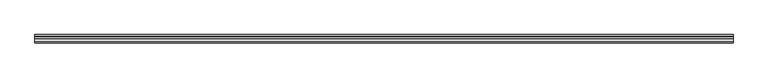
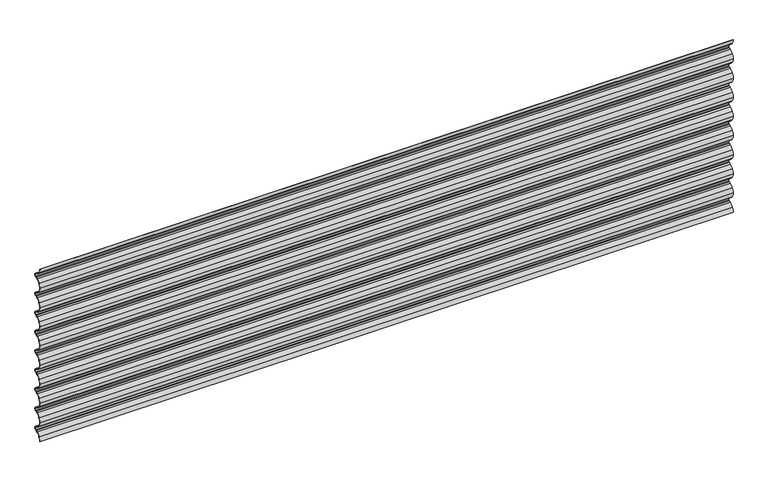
"""IFC4 building model written with IfcOpenShell, lengths in millimetres: plate geometry, Regolare Horizontal 801 : Regolare Horizontal 801."""

from ifc_helpers import new_model, si_unit, point, frame, frame_2d, origin, place, context, project, spatial, polyline, circle_curve, trimmed, segment, composite_curve, outline, extrude, source, transform, mapped, element, save


def plate_54f94469(model_context):
    return source(origin(), model_context, "Body", "SweptSolid", [
        extrude(outline(composite_curve([segment(trimmed(circle_curve(frame_2d((38.4503244, 0.0)), 37.4503244), [point((6.5021495, 19.5407501))], [point((1.0, 0.0))], True, "CARTESIAN"), True, "CONTINUOUS"), segment(polyline([(1.0, 0.0), (0.0, 0.0)]), True, "CONTINUOUS"), segment(trimmed(circle_curve(frame_2d((38.4503244, 0.0)), 38.4503244), [point((0.0, 0.0))], [point((5.6490681, 20.062528))], False, "CARTESIAN"), True, "CONTINUOUS"), segment(trimmed(circle_curve(frame_2d((32.6206681, 3.5656452)), 31.6166783), [point((5.6490681, 20.062528))], [point((20.878867, 32.9211295))], False, "CARTESIAN"), True, "CONTINUOUS"), segment(polyline([(20.878867, 32.9211295), (28.0423924, 35.7903512), (31.4771017, 37.4367049)]), True, "CONTINUOUS"), segment(trimmed(circle_curve(frame_2d((28.0791236, 44.5257445)), 7.8613445), [point((31.4771017, 37.4367049))], [point((35.9404682, 44.5257445))], True, "CARTESIAN"), True, "CONTINUOUS"), segment(trimmed(circle_curve(frame_2d((28.0791236, 44.5257445)), 7.8613445), [point((35.9404682, 44.5257445))], [point((31.4771017, 51.6147842))], True, "CARTESIAN"), True, "CONTINUOUS"), segment(polyline([(31.4771017, 51.6147842), (28.0423924, 53.2611379), (20.878867, 56.1303596)]), True, "CONTINUOUS"), segment(trimmed(circle_curve(frame_2d((32.6206681, 85.4858438)), 31.6166783), [point((20.878867, 56.1303596))], [point((5.6490681, 68.9889611))], False, "CARTESIAN"), True, "CONTINUOUS"), segment(trimmed(circle_curve(frame_2d((38.4503244, 89.0514891)), 38.4503244), [point((5.6490681, 68.9889611))], [point((0.0, 89.0514891))], False, "CARTESIAN"), True, "CONTINUOUS"), segment(trimmed(circle_curve(frame_2d((38.4503244, 89.0514891)), 38.4503244), [point((0.0, 89.0514891))], [point((5.6490681, 109.1140171))], False, "CARTESIAN"), True, "CONTINUOUS"), segment(trimmed(circle_curve(frame_2d((32.6206681, 92.6171343)), 31.6166783), [point((5.6490681, 109.1140171))], [point((20.878867, 121.9726185))], False, "CARTESIAN"), True, "CONTINUOUS"), segment(polyline([(20.878867, 121.9726185), (28.0423924, 124.8418403), (31.4771017, 126.488194)]), True, "CONTINUOUS"), segment(trimmed(circle_curve(frame_2d((28.0791236, 133.5772336)), 7.8613445), [point((31.4771017, 126.488194))], [point((31.4771017, 140.6662733))], True, "CARTESIAN"), True, "CONTINUOUS"), segment(polyline([(31.4771017, 140.6662733), (28.0423924, 142.312627), (20.878867, 145.1818487)]), True, "CONTINUOUS"), segment(trimmed(circle_curve(frame_2d((32.6206681, 174.5373329)), 31.6166783), [point((20.878867, 145.1818487))], [point((5.6490681, 158.0404502))], False, "CARTESIAN"), True, "CONTINUOUS"), segment(trimmed(circle_curve(frame_2d((38.4503244, 178.1029782)), 38.4503244), [point((5.6490681, 158.0404502))], [point((0.0, 178.1029782))], False, "CARTESIAN"), True, "CONTINUOUS"), segment(trimmed(circle_curve(frame_2d((38.4503244, 178.1029782)), 38.4503244), [point((0.0, 178.1029782))], [point((5.6490681, 198.1655062))], False, "CARTESIAN"), True, "CONTINUOUS"), segment(trimmed(circle_curve(frame_2d((32.6206681, 181.6686234)), 31.6166783), [point((5.6490681, 198.1655062))], [point((20.878867, 211.0241076))], False, "CARTESIAN"), True, "CONTINUOUS"), segment(polyline([(20.878867, 211.0241076), (28.0423924, 213.8933293), (31.4771017, 215.5396831)]), True, "CONTINUOUS"), segment(trimmed(circle_curve(frame_2d((28.0791236, 222.6287227)), 7.8613445), [point((31.4771017, 215.5396831))], [point((31.4771017, 229.7177623))], True, "CARTESIAN"), True, "CONTINUOUS"), segment(polyline([(31.4771017, 229.7177623), (28.0423924, 231.3641161), (20.878867, 234.2333378)]), True, "CONTINUOUS"), segment(trimmed(circle_curve(frame_2d((32.6206681, 263.588822)), 31.6166783), [point((20.878867, 234.2333378))], [point((5.6490681, 247.0919392))], False, "CARTESIAN"), True, "CONTINUOUS"), segment(trimmed(circle_curve(frame_2d((38.4503244, 267.1544672)), 38.4503244), [point((5.6490681, 247.0919392))], [point((0.0, 267.1544672))], False, "CARTESIAN"), True, "CONTINUOUS"), segment(trimmed(circle_curve(frame_2d((38.4503244, 267.1544672)), 38.4503244), [point((0.0, 267.1544672))], [point((5.6490681, 287.2169952))], False, "CARTESIAN"), True, "CONTINUOUS"), segment(trimmed(circle_curve(frame_2d((32.6206681, 270.7201125)), 31.6166783), [point((5.6490681, 287.2169952))], [point((20.878867, 300.0755967))], False, "CARTESIAN"), True, "CONTINUOUS"), segment(polyline([(20.878867, 300.0755967), (28.0423924, 302.9448184), (31.4771017, 304.5911721)]), True, "CONTINUOUS"), segment(trimmed(circle_curve(frame_2d((28.0791236, 311.6802118)), 7.8613445), [point((31.4771017, 304.5911721))], [point((31.4771017, 318.7692514))], True, "CARTESIAN"), True, "CONTINUOUS"), segment(polyline([(31.4771017, 318.7692514), (28.0423924, 320.4156051), (20.878867, 323.2848269)]), True, "CONTINUOUS"), segment(trimmed(circle_curve(frame_2d((32.6206681, 352.6403111)), 31.6166783), [point((20.878867, 323.2848269))], [point((5.6490681, 336.1434283))], False, "CARTESIAN"), True, "CONTINUOUS"), segment(trimmed(circle_curve(frame_2d((38.4503244, 356.2059563)), 38.4503244), [point((5.6490681, 336.1434283))], [point((0.0, 356.2059563))], False, "CARTESIAN"), True, "CONTINUOUS"), segment(trimmed(circle_curve(frame_2d((38.4503244, 356.2059563)), 38.4503244), [point((0.0, 356.2059563))], [point((5.6490681, 376.2684843))], False, "CARTESIAN"), True, "CONTINUOUS"), segment(trimmed(circle_curve(frame_2d((32.6206681, 359.7716016)), 31.6166783), [point((5.6490681, 376.2684843))], [point((20.878867, 389.1270858))], False, "CARTESIAN"), True, "CONTINUOUS"), segment(polyline([(20.878867, 389.1270858), (28.0423924, 391.9963075), (31.4771017, 393.6426612)]), True, "CONTINUOUS"), segment(trimmed(circle_curve(frame_2d((28.0791236, 400.7317009)), 7.8613445), [point((31.4771017, 393.6426612))], [point((31.4771017, 407.8207405))], True, "CARTESIAN"), True, "CONTINUOUS"), segment(polyline([(31.4771017, 407.8207405), (28.0423924, 409.4670942), (20.878867, 412.3363159)]), True, "CONTINUOUS"), segment(trimmed(circle_curve(frame_2d((32.6206681, 441.6918002)), 31.6166783), [point((20.878867, 412.3363159))], [point((5.6490681, 425.1949174))], False, "CARTESIAN"), True, "CONTINUOUS"), segment(trimmed(circle_curve(frame_2d((38.4503244, 445.2574454)), 38.4503244), [point((5.6490681, 425.1949174))], [point((0.0, 445.2574454))], False, "CARTESIAN"), True, "CONTINUOUS"), segment(trimmed(circle_curve(frame_2d((38.4503244, 445.2574454)), 38.4503244), [point((0.0, 445.2574454))], [point((5.6490681, 465.3199734))], False, "CARTESIAN"), True, "CONTINUOUS"), segment(trimmed(circle_curve(frame_2d((32.6206681, 448.8230907)), 31.6166783), [point((5.6490681, 465.3199734))], [point((20.878867, 478.1785749))], False, "CARTESIAN"), True, "CONTINUOUS"), segment(polyline([(20.878867, 478.1785749), (28.0423924, 481.0477966), (31.4771017, 482.6941503)]), True, "CONTINUOUS"), segment(trimmed(circle_curve(frame_2d((28.0791236, 489.7831899)), 7.8613445), [point((31.4771017, 482.6941503))], [point((31.4771017, 496.8722296))], True, "CARTESIAN"), True, "CONTINUOUS"), segment(polyline([(31.4771017, 496.8722296), (28.0423924, 498.5185833), (20.878867, 501.387805)]), True, "CONTINUOUS"), segment(trimmed(circle_curve(frame_2d((32.6206681, 530.7432892)), 31.6166783), [point((20.878867, 501.387805))], [point((5.6490681, 514.2464065))], False, "CARTESIAN"), True, "CONTINUOUS"), segment(trimmed(circle_curve(frame_2d((38.4503244, 534.3089345)), 38.4503244), [point((5.6490681, 514.2464065))], [point((0.0, 534.3089345))], False, "CARTESIAN"), True, "CONTINUOUS"), segment(trimmed(circle_curve(frame_2d((38.4503244, 534.3089345)), 38.4503244), [point((0.0, 534.3089345))], [point((5.6490681, 554.3714625))], False, "CARTESIAN"), True, "CONTINUOUS"), segment(trimmed(circle_curve(frame_2d((32.6206681, 537.8745797)), 31.6166783), [point((5.6490681, 554.3714625))], [point((20.878867, 567.2300639))], False, "CARTESIAN"), True, "CONTINUOUS"), segment(polyline([(20.878867, 567.2300639), (28.0423924, 570.0992857), (31.4771017, 571.7456394)]), True, "CONTINUOUS"), segment(trimmed(circle_curve(frame_2d((28.0791236, 578.834679)), 7.8613445), [point((31.4771017, 571.7456394))], [point((31.4771017, 585.9237187))], True, "CARTESIAN"), True, "CONTINUOUS"), segment(polyline([(31.4771017, 585.9237187), (28.0423924, 587.5700724), (20.878867, 590.4392941)]), True, "CONTINUOUS"), segment(trimmed(circle_curve(frame_2d((32.6206681, 619.7947783)), 31.6166783), [point((20.878867, 590.4392941))], [point((5.6490681, 603.2978956))], False, "CARTESIAN"), True, "CONTINUOUS"), segment(trimmed(circle_curve(frame_2d((38.4503244, 623.3604236)), 38.4503244), [point((5.6490681, 603.2978956))], [point((0.0, 623.3604236))], False, "CARTESIAN"), True, "CONTINUOUS"), segment(trimmed(circle_curve(frame_2d((38.4503244, 623.3604236)), 38.4503244), [point((0.0, 623.3604236))], [point((5.6490681, 643.4229516))], False, "CARTESIAN"), True, "CONTINUOUS"), segment(trimmed(circle_curve(frame_2d((32.6206681, 626.9260688)), 31.6166783), [point((5.6490681, 643.4229516))], [point((20.878867, 656.281553))], False, "CARTESIAN"), True, "CONTINUOUS"), segment(polyline([(20.878867, 656.281553), (28.0423924, 659.1507748), (31.4771017, 660.7971285)]), True, "CONTINUOUS"), segment(trimmed(circle_curve(frame_2d((28.0791236, 667.8861681)), 7.8613445), [point((31.4771017, 660.7971285))], [point((31.4771017, 674.9752077))], True, "CARTESIAN"), True, "CONTINUOUS"), segment(polyline([(31.4771017, 674.9752077), (28.0423924, 676.6215615), (20.878867, 679.4907832)]), True, "CONTINUOUS"), segment(trimmed(circle_curve(frame_2d((32.6206681, 708.8462674)), 31.6166783), [point((20.878867, 679.4907832))], [point((5.6490681, 692.3493846))], False, "CARTESIAN"), True, "CONTINUOUS"), segment(trimmed(circle_curve(frame_2d((38.4503244, 712.4119126)), 38.4503244), [point((5.6490681, 692.3493846))], [point((0.0, 712.4119126))], False, "CARTESIAN"), True, "CONTINUOUS"), segment(trimmed(circle_curve(frame_2d((38.4503244, 712.4119126)), 38.4503244), [point((0.0, 712.4119126))], [point((5.6490681, 732.4744406))], False, "CARTESIAN"), True, "CONTINUOUS"), segment(trimmed(circle_curve(frame_2d((32.6206681, 715.9775579)), 31.6166783), [point((5.6490681, 732.4744406))], [point((20.878867, 745.3330421))], False, "CARTESIAN"), True, "CONTINUOUS"), segment(polyline([(20.878867, 745.3330421), (28.0423924, 748.2022638), (31.4771017, 749.8486175)]), True, "CONTINUOUS"), segment(trimmed(circle_curve(frame_2d((28.0791236, 756.9376572)), 7.8613445), [point((31.4771017, 749.8486175))], [point((31.4771017, 764.0266968))], True, "CARTESIAN"), True, "CONTINUOUS"), segment(polyline([(31.4771017, 764.0266968), (28.0423924, 765.6730505), (20.878867, 768.5422723)]), True, "CONTINUOUS"), segment(trimmed(circle_curve(frame_2d((32.6206681, 797.8977565)), 31.6166783), [point((20.878867, 768.5422723))], [point((5.6490681, 781.4008737))], False, "CARTESIAN"), True, "CONTINUOUS"), segment(trimmed(circle_curve(frame_2d((38.4503244, 801.4634017)), 38.4503244), [point((5.6490681, 781.4008737))], [point((0.0, 801.4634017))], False, "CARTESIAN"), True, "CONTINUOUS"), segment(polyline([(0.0, 801.4634017), (1.0, 801.4634017)]), True, "CONTINUOUS"), segment(trimmed(circle_curve(frame_2d((38.4503244, 801.4634017)), 37.4503244), [point((1.0, 801.4634017))], [point((6.5021495, 781.9226516))], True, "CARTESIAN"), True, "CONTINUOUS"), segment(trimmed(circle_curve(frame_2d((32.6206681, 797.8977565)), 30.6166783), [point((6.5021495, 781.9226516))], [point((21.2504634, 769.4706666))], True, "CARTESIAN"), True, "CONTINUOUS"), segment(polyline([(21.2504634, 769.4706666), (28.4448583, 766.5890807), (31.9093405, 764.928456)]), True, "CONTINUOUS"), segment(trimmed(circle_curve(frame_2d((28.0791236, 756.9376572)), 8.8613445), [point((31.9093405, 764.928456))], [point((31.9093405, 748.9468584))], False, "CARTESIAN"), True, "CONTINUOUS"), segment(polyline([(31.9093405, 748.9468584), (28.4448583, 747.2862336), (21.2504634, 744.4046477)]), True, "CONTINUOUS"), segment(trimmed(circle_curve(frame_2d((32.6206681, 715.9775579)), 30.6166783), [point((21.2504634, 744.4046477))], [point((6.5021495, 731.9526628))], True, "CARTESIAN"), True, "CONTINUOUS"), segment(trimmed(circle_curve(frame_2d((38.4503244, 712.4119126)), 37.4503244), [point((6.5021495, 731.9526628))], [point((1.0, 712.4119126))], True, "CARTESIAN"), True, "CONTINUOUS"), segment(trimmed(circle_curve(frame_2d((38.4503244, 712.4119126)), 37.4503244), [point((1.0, 712.4119126))], [point((6.5021495, 692.8711625))], True, "CARTESIAN"), True, "CONTINUOUS"), segment(trimmed(circle_curve(frame_2d((32.6206681, 708.8462674)), 30.6166783), [point((6.5021495, 692.8711625))], [point((21.2504634, 680.4191776))], True, "CARTESIAN"), True, "CONTINUOUS"), segment(polyline([(21.2504634, 680.4191776), (28.4448583, 677.5375917), (31.9093405, 675.8769669)]), True, "CONTINUOUS"), segment(trimmed(circle_curve(frame_2d((28.0791236, 667.8861681)), 8.8613445), [point((31.9093405, 675.8769669))], [point((31.9093405, 659.8953693))], False, "CARTESIAN"), True, "CONTINUOUS"), segment(polyline([(31.9093405, 659.8953693), (28.4448583, 658.2347446), (21.2504634, 655.3531587)]), True, "CONTINUOUS"), segment(trimmed(circle_curve(frame_2d((32.6206681, 626.9260688)), 30.6166783), [point((21.2504634, 655.3531587))], [point((6.5021495, 642.9011737))], True, "CARTESIAN"), True, "CONTINUOUS"), segment(trimmed(circle_curve(frame_2d((38.4503244, 623.3604236)), 37.4503244), [point((6.5021495, 642.9011737))], [point((1.0, 623.3604236))], True, "CARTESIAN"), True, "CONTINUOUS"), segment(trimmed(circle_curve(frame_2d((38.4503244, 623.3604236)), 37.4503244), [point((1.0, 623.3604236))], [point((6.5021495, 603.8196734))], True, "CARTESIAN"), True, "CONTINUOUS"), segment(trimmed(circle_curve(frame_2d((32.6206681, 619.7947783)), 30.6166783), [point((6.5021495, 603.8196734))], [point((21.2504634, 591.3676885))], True, "CARTESIAN"), True, "CONTINUOUS"), segment(polyline([(21.2504634, 591.3676885), (28.4448583, 588.4861026), (31.9093405, 586.8254778)]), True, "CONTINUOUS"), segment(trimmed(circle_curve(frame_2d((28.0791236, 578.834679)), 8.8613445), [point((31.9093405, 586.8254778))], [point((31.9093405, 570.8438802))], False, "CARTESIAN"), True, "CONTINUOUS"), segment(polyline([(31.9093405, 570.8438802), (28.4448583, 569.1832555), (21.2504634, 566.3016696)]), True, "CONTINUOUS"), segment(trimmed(circle_curve(frame_2d((32.6206681, 537.8745797)), 30.6166783), [point((21.2504634, 566.3016696))], [point((6.5021495, 553.8496846))], True, "CARTESIAN"), True, "CONTINUOUS"), segment(trimmed(circle_curve(frame_2d((38.4503244, 534.3089345)), 37.4503244), [point((6.5021495, 553.8496846))], [point((1.0, 534.3089345))], True, "CARTESIAN"), True, "CONTINUOUS"), segment(trimmed(circle_curve(frame_2d((38.4503244, 534.3089345)), 37.4503244), [point((1.0, 534.3089345))], [point((6.5021495, 514.7681843))], True, "CARTESIAN"), True, "CONTINUOUS"), segment(trimmed(circle_curve(frame_2d((32.6206681, 530.7432892)), 30.6166783), [point((6.5021495, 514.7681843))], [point((21.2504634, 502.3161994))], True, "CARTESIAN"), True, "CONTINUOUS"), segment(polyline([(21.2504634, 502.3161994), (28.4448583, 499.4346135), (31.9093405, 497.7739888)]), True, "CONTINUOUS"), segment(trimmed(circle_curve(frame_2d((28.0791236, 489.7831899)), 8.8613445), [point((31.9093405, 497.7739888))], [point((31.9093405, 481.7923911))], False, "CARTESIAN"), True, "CONTINUOUS"), segment(polyline([(31.9093405, 481.7923911), (28.4448583, 480.1317664), (21.2504634, 477.2501805)]), True, "CONTINUOUS"), segment(trimmed(circle_curve(frame_2d((32.6206681, 448.8230907)), 30.6166783), [point((21.2504634, 477.2501805))], [point((6.5021495, 464.7981955))], True, "CARTESIAN"), True, "CONTINUOUS"), segment(trimmed(circle_curve(frame_2d((38.4503244, 445.2574454)), 37.4503244), [point((6.5021495, 464.7981955))], [point((1.0, 445.2574454))], True, "CARTESIAN"), True, "CONTINUOUS"), segment(trimmed(circle_curve(frame_2d((38.4503244, 445.2574454)), 37.4503244), [point((1.0, 445.2574454))], [point((6.5021495, 425.7166953))], True, "CARTESIAN"), True, "CONTINUOUS"), segment(trimmed(circle_curve(frame_2d((32.6206681, 441.6918002)), 30.6166783), [point((6.5021495, 425.7166953))], [point((21.2504634, 413.2647103))], True, "CARTESIAN"), True, "CONTINUOUS"), segment(polyline([(21.2504634, 413.2647103), (28.4448583, 410.3831244), (31.9093405, 408.7224997)]), True, "CONTINUOUS"), segment(trimmed(circle_curve(frame_2d((28.0791236, 400.7317009)), 8.8613445), [point((31.9093405, 408.7224997))], [point((31.9093405, 392.740902))], False, "CARTESIAN"), True, "CONTINUOUS"), segment(polyline([(31.9093405, 392.740902), (28.4448583, 391.0802773), (21.2504634, 388.1986914)]), True, "CONTINUOUS"), segment(trimmed(circle_curve(frame_2d((32.6206681, 359.7716016)), 30.6166783), [point((21.2504634, 388.1986914))], [point((6.5021495, 375.7467065))], True, "CARTESIAN"), True, "CONTINUOUS"), segment(trimmed(circle_curve(frame_2d((38.4503244, 356.2059563)), 37.4503244), [point((6.5021495, 375.7467065))], [point((1.0, 356.2059563))], True, "CARTESIAN"), True, "CONTINUOUS"), segment(trimmed(circle_curve(frame_2d((38.4503244, 356.2059563)), 37.4503244), [point((1.0, 356.2059563))], [point((6.5021495, 336.6652062))], True, "CARTESIAN"), True, "CONTINUOUS"), segment(trimmed(circle_curve(frame_2d((32.6206681, 352.6403111)), 30.6166783), [point((6.5021495, 336.6652062))], [point((21.2504634, 324.2132212))], True, "CARTESIAN"), True, "CONTINUOUS"), segment(polyline([(21.2504634, 324.2132212), (28.4448583, 321.3316353), (31.9093405, 319.6710106)]), True, "CONTINUOUS"), segment(trimmed(circle_curve(frame_2d((28.0791236, 311.6802118)), 8.8613445), [point((31.9093405, 319.6710106))], [point((31.9093405, 303.689413))], False, "CARTESIAN"), True, "CONTINUOUS"), segment(polyline([(31.9093405, 303.689413), (28.4448583, 302.0287882), (21.2504634, 299.1472023)]), True, "CONTINUOUS"), segment(trimmed(circle_curve(frame_2d((32.6206681, 270.7201125)), 30.6166783), [point((21.2504634, 299.1472023))], [point((6.5021495, 286.6952174))], True, "CARTESIAN"), True, "CONTINUOUS"), segment(trimmed(circle_curve(frame_2d((38.4503244, 267.1544672)), 37.4503244), [point((6.5021495, 286.6952174))], [point((1.0, 267.1544672))], True, "CARTESIAN"), True, "CONTINUOUS"), segment(trimmed(circle_curve(frame_2d((38.4503244, 267.1544672)), 37.4503244), [point((1.0, 267.1544672))], [point((6.5021495, 247.6137171))], True, "CARTESIAN"), True, "CONTINUOUS"), segment(trimmed(circle_curve(frame_2d((32.6206681, 263.588822)), 30.6166783), [point((6.5021495, 247.6137171))], [point((21.2504634, 235.1617322))], True, "CARTESIAN"), True, "CONTINUOUS"), segment(polyline([(21.2504634, 235.1617322), (28.4448583, 232.2801463), (31.9093405, 230.6195215)]), True, "CONTINUOUS"), segment(trimmed(circle_curve(frame_2d((28.0791236, 222.6287227)), 8.8613445), [point((31.9093405, 230.6195215))], [point((31.9093405, 214.6379239))], False, "CARTESIAN"), True, "CONTINUOUS"), segment(polyline([(31.9093405, 214.6379239), (28.4448583, 212.9772992), (21.2504634, 210.0957133)]), True, "CONTINUOUS"), segment(trimmed(circle_curve(frame_2d((32.6206681, 181.6686234)), 30.6166783), [point((21.2504634, 210.0957133))], [point((6.5021495, 197.6437283))], True, "CARTESIAN"), True, "CONTINUOUS"), segment(trimmed(circle_curve(frame_2d((38.4503244, 178.1029782)), 37.4503244), [point((6.5021495, 197.6437283))], [point((1.0, 178.1029782))], True, "CARTESIAN"), True, "CONTINUOUS"), segment(trimmed(circle_curve(frame_2d((38.4503244, 178.1029782)), 37.4503244), [point((1.0, 178.1029782))], [point((6.5021495, 158.562228))], True, "CARTESIAN"), True, "CONTINUOUS"), segment(trimmed(circle_curve(frame_2d((32.6206681, 174.5373329)), 30.6166783), [point((6.5021495, 158.562228))], [point((21.2504634, 146.1102431))], True, "CARTESIAN"), True, "CONTINUOUS"), segment(polyline([(21.2504634, 146.1102431), (28.4448583, 143.2286572), (31.9093405, 141.5680324)]), True, "CONTINUOUS"), segment(trimmed(circle_curve(frame_2d((28.0791236, 133.5772336)), 8.8613445), [point((31.9093405, 141.5680324))], [point((31.9093405, 125.5864348))], False, "CARTESIAN"), True, "CONTINUOUS"), segment(polyline([(31.9093405, 125.5864348), (28.4448583, 123.9258101), (21.2504634, 121.0442242)]), True, "CONTINUOUS"), segment(trimmed(circle_curve(frame_2d((32.6206681, 92.6171343)), 30.6166783), [point((21.2504634, 121.0442242))], [point((6.5021495, 108.5922392))], True, "CARTESIAN"), True, "CONTINUOUS"), segment(trimmed(circle_curve(frame_2d((38.4503244, 89.0514891)), 37.4503244), [point((6.5021495, 108.5922392))], [point((1.0, 89.0514891))], True, "CARTESIAN"), True, "CONTINUOUS"), segment(trimmed(circle_curve(frame_2d((38.4503244, 89.0514891)), 37.4503244), [point((1.0, 89.0514891))], [point((6.5021495, 69.5107389))], True, "CARTESIAN"), True, "CONTINUOUS"), segment(trimmed(circle_curve(frame_2d((32.6206681, 85.4858438)), 30.6166783), [point((6.5021495, 69.5107389))], [point((21.2504634, 57.058754))], True, "CARTESIAN"), True, "CONTINUOUS"), segment(polyline([(21.2504634, 57.058754), (28.4448583, 54.1771681), (31.9093405, 52.5165434)]), True, "CONTINUOUS"), segment(trimmed(circle_curve(frame_2d((28.0791236, 44.5257445)), 8.8613445), [point((31.9093405, 52.5165434))], [point((36.9404682, 44.5257445))], False, "CARTESIAN"), True, "CONTINUOUS"), segment(trimmed(circle_curve(frame_2d((28.0791236, 44.5257445)), 8.8613445), [point((36.9404682, 44.5257445))], [point((31.9093405, 36.5349457))], False, "CARTESIAN"), True, "CONTINUOUS"), segment(polyline([(31.9093405, 36.5349457), (28.4448583, 34.874321), (21.2504634, 31.9927351)]), True, "CONTINUOUS"), segment(trimmed(circle_curve(frame_2d((32.6206681, 3.5656452)), 30.6166783), [point((21.2504634, 31.9927351))], [point((6.5021495, 19.5407501))], True, "CARTESIAN"), True, "CONTINUOUS")], self_intersect=False)), frame((-1524.5, 0.0, 0.0), z_axis=(1.0, 0.0, 0.0), x_axis=(0.0, 1.0, 0.0)), (0.0, 0.0, 1.0), 3049.0),
    ])


if __name__ == "__main__":
    model = new_model("IFC4")
    model_context = context("Model", 3, world=origin())
    ifc_project = project(units=[si_unit("LENGTHUNIT", "METRE", prefix="MILLI")], contexts=[model_context])
    site = spatial("IfcSite", under=ifc_project)
    building = spatial("IfcBuilding", under=site)
    placement = place(None, origin())
    plate_shape = plate_54f94469(model_context)
    element("IfcPlate", 1, ObjectType="Regolare Horizontal 801 : Regolare Horizontal 801", at=placement, inside=building, context=model_context, shape_type="MappedRepresentation", body=[
        mapped(plate_shape, transform((0.0, 0.0, 0.0), x_axis=(1.0, 0.0, 0.0), y_axis=(0.0, 1.0, 0.0), z_axis=(0.0, 0.0, 1.0))),
    ])
    save(model, "model.ifc")
